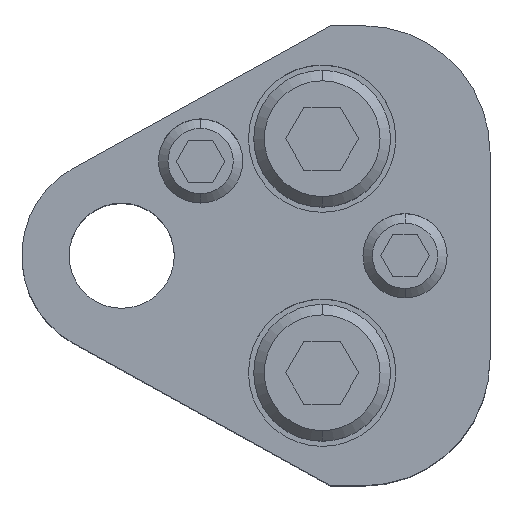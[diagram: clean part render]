
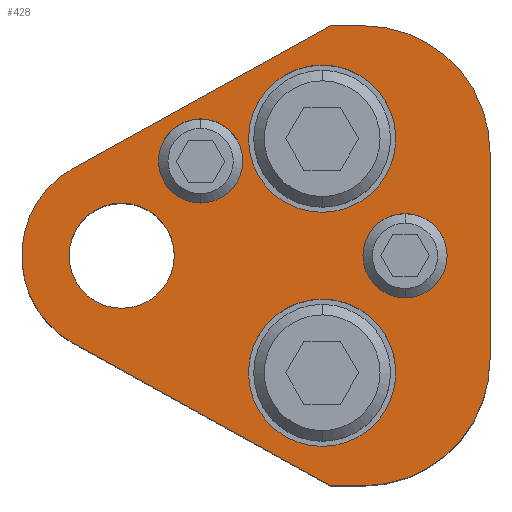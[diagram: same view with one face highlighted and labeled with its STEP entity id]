
A CAD part, top view. The second image highlights one B-rep face of the part: STEP entity #428.
In plain terms, the highlighted planar face has unit normal (0, 0, 1).
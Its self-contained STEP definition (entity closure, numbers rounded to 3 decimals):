
#198=FACE_BOUND('',#745,.T.);
#199=FACE_BOUND('',#746,.T.);
#200=FACE_BOUND('',#747,.T.);
#201=FACE_BOUND('',#748,.T.);
#202=FACE_BOUND('',#749,.T.);
#203=FACE_BOUND('',#750,.T.);
#276=CIRCLE('',#2330,12.);
#278=CIRCLE('',#2334,12.);
#281=CIRCLE('',#2340,9.5);
#282=CIRCLE('',#2342,4.);
#284=CIRCLE('',#2345,4.);
#286=CIRCLE('',#2348,4.);
#288=CIRCLE('',#2351,4.);
#298=CIRCLE('',#2366,7.);
#299=CIRCLE('',#2367,7.);
#300=CIRCLE('',#2368,7.);
#301=CIRCLE('',#2369,7.);
#302=CIRCLE('',#2370,5.);
#303=CIRCLE('',#2371,5.);
#428=ADVANCED_FACE('',(#198,#199,#200,#201,#202,#203),#522,.T.);
#522=PLANE('',#2372);
#745=EDGE_LOOP('',(#1129,#1130,#1131,#1132,#1133,#1134,#1135,#1136));
#746=EDGE_LOOP('',(#1137,#1138));
#747=EDGE_LOOP('',(#1139,#1140));
#748=EDGE_LOOP('',(#1141,#1142));
#749=EDGE_LOOP('',(#1143,#1144));
#750=EDGE_LOOP('',(#1145,#1146));
#1129=ORIENTED_EDGE('',*,*,#1724,.T.);
#1130=ORIENTED_EDGE('',*,*,#1728,.T.);
#1131=ORIENTED_EDGE('',*,*,#1731,.T.);
#1132=ORIENTED_EDGE('',*,*,#1734,.T.);
#1133=ORIENTED_EDGE('',*,*,#1737,.T.);
#1134=ORIENTED_EDGE('',*,*,#1740,.T.);
#1135=ORIENTED_EDGE('',*,*,#1743,.T.);
#1136=ORIENTED_EDGE('',*,*,#1746,.T.);
#1137=ORIENTED_EDGE('',*,*,#1771,.F.);
#1138=ORIENTED_EDGE('',*,*,#1772,.F.);
#1139=ORIENTED_EDGE('',*,*,#1773,.F.);
#1140=ORIENTED_EDGE('',*,*,#1774,.F.);
#1141=ORIENTED_EDGE('',*,*,#1757,.F.);
#1142=ORIENTED_EDGE('',*,*,#1753,.F.);
#1143=ORIENTED_EDGE('',*,*,#1751,.F.);
#1144=ORIENTED_EDGE('',*,*,#1747,.F.);
#1145=ORIENTED_EDGE('',*,*,#1775,.T.);
#1146=ORIENTED_EDGE('',*,*,#1776,.T.);
#1492=VERTEX_POINT('',#3476);
#1493=VERTEX_POINT('',#3478);
#1496=VERTEX_POINT('',#3485);
#1498=VERTEX_POINT('',#3491);
#1500=VERTEX_POINT('',#3497);
#1502=VERTEX_POINT('',#3503);
#1504=VERTEX_POINT('',#3509);
#1506=VERTEX_POINT('',#3515);
#1507=VERTEX_POINT('',#3523);
#1508=VERTEX_POINT('',#3524);
#1511=VERTEX_POINT('',#3535);
#1512=VERTEX_POINT('',#3536);
#1523=VERTEX_POINT('',#3571);
#1524=VERTEX_POINT('',#3572);
#1525=VERTEX_POINT('',#3575);
#1526=VERTEX_POINT('',#3576);
#1527=VERTEX_POINT('',#3579);
#1528=VERTEX_POINT('',#3580);
#1724=EDGE_CURVE('',#1493,#1492,#1968,.T.);
#1728=EDGE_CURVE('',#1492,#1496,#1972,.T.);
#1731=EDGE_CURVE('',#1496,#1498,#276,.T.);
#1734=EDGE_CURVE('',#1498,#1500,#1976,.T.);
#1737=EDGE_CURVE('',#1500,#1502,#278,.T.);
#1740=EDGE_CURVE('',#1502,#1504,#1980,.T.);
#1743=EDGE_CURVE('',#1504,#1506,#1983,.T.);
#1746=EDGE_CURVE('',#1506,#1493,#281,.T.);
#1747=EDGE_CURVE('',#1507,#1508,#282,.T.);
#1751=EDGE_CURVE('',#1508,#1507,#284,.T.);
#1753=EDGE_CURVE('',#1511,#1512,#286,.T.);
#1757=EDGE_CURVE('',#1512,#1511,#288,.T.);
#1771=EDGE_CURVE('',#1523,#1524,#298,.T.);
#1772=EDGE_CURVE('',#1524,#1523,#299,.T.);
#1773=EDGE_CURVE('',#1525,#1526,#300,.T.);
#1774=EDGE_CURVE('',#1526,#1525,#301,.T.);
#1775=EDGE_CURVE('',#1527,#1528,#302,.T.);
#1776=EDGE_CURVE('',#1528,#1527,#303,.T.);
#1968=LINE('',#3477,#2132);
#1972=LINE('',#3486,#2136);
#1976=LINE('',#3498,#2140);
#1980=LINE('',#3510,#2144);
#1983=LINE('',#3516,#2147);
#2132=VECTOR('',#2758,1.);
#2136=VECTOR('',#2764,1.);
#2140=VECTOR('',#2776,1.);
#2144=VECTOR('',#2788,1.);
#2147=VECTOR('',#2793,1.);
#2330=AXIS2_PLACEMENT_3D('',#3492,#2769,#2770);
#2334=AXIS2_PLACEMENT_3D('',#3504,#2781,#2782);
#2340=AXIS2_PLACEMENT_3D('',#3520,#2799,#2800);
#2342=AXIS2_PLACEMENT_3D('',#3522,#2803,#2804);
#2345=AXIS2_PLACEMENT_3D('',#3531,#2811,#2812);
#2348=AXIS2_PLACEMENT_3D('',#3534,#2817,#2818);
#2351=AXIS2_PLACEMENT_3D('',#3543,#2825,#2826);
#2366=AXIS2_PLACEMENT_3D('',#3570,#2859,#2860);
#2367=AXIS2_PLACEMENT_3D('',#3573,#2861,#2862);
#2368=AXIS2_PLACEMENT_3D('',#3574,#2863,#2864);
#2369=AXIS2_PLACEMENT_3D('',#3577,#2865,#2866);
#2370=AXIS2_PLACEMENT_3D('',#3578,#2867,#2868);
#2371=AXIS2_PLACEMENT_3D('',#3581,#2869,#2870);
#2372=AXIS2_PLACEMENT_3D('',#3582,#2871,#2872);
#2758=DIRECTION('',(0.875,-0.485,0.));
#2764=DIRECTION('',(1.,0.,0.));
#2769=DIRECTION('',(0.,0.,1.));
#2770=DIRECTION('',(-0.707,0.707,0.));
#2776=DIRECTION('',(0.,1.,0.));
#2781=DIRECTION('',(0.,0.,1.));
#2782=DIRECTION('',(-0.707,-0.707,0.));
#2788=DIRECTION('',(-1.,0.,0.));
#2793=DIRECTION('',(-0.875,-0.485,0.));
#2799=DIRECTION('',(0.,0.,1.));
#2800=DIRECTION('',(1.,0.,0.));
#2803=DIRECTION('',(0.,0.,1.));
#2804=DIRECTION('',(-1.,0.,0.));
#2811=DIRECTION('',(0.,0.,1.));
#2812=DIRECTION('',(1.,0.,0.));
#2817=DIRECTION('',(0.,0.,1.));
#2818=DIRECTION('',(-1.,0.,0.));
#2825=DIRECTION('',(0.,0.,1.));
#2826=DIRECTION('',(1.,0.,0.));
#2859=DIRECTION('',(0.,0.,1.));
#2860=DIRECTION('',(1.,0.,0.));
#2861=DIRECTION('',(0.,0.,1.));
#2862=DIRECTION('',(-1.,0.,0.));
#2863=DIRECTION('',(0.,0.,1.));
#2864=DIRECTION('',(1.,0.,0.));
#2865=DIRECTION('',(0.,0.,1.));
#2866=DIRECTION('',(-1.,0.,0.));
#2867=DIRECTION('',(0.,0.,-1.));
#2868=DIRECTION('',(-1.,0.,0.));
#2869=DIRECTION('',(0.,0.,-1.));
#2870=DIRECTION('',(1.,0.,0.));
#2871=DIRECTION('',(0.,0.,1.));
#2872=DIRECTION('',(-0.875,0.485,0.));
#3476=CARTESIAN_POINT('',(19.823,-21.85,32.));
#3477=CARTESIAN_POINT('',(19.823,-21.85,32.));
#3478=CARTESIAN_POINT('',(-4.606,-8.309,32.));
#3485=CARTESIAN_POINT('',(23.,-21.85,32.));
#3486=CARTESIAN_POINT('',(19.823,-21.85,32.));
#3491=CARTESIAN_POINT('',(35.,-9.85,32.));
#3492=CARTESIAN_POINT('',(23.,-9.85,32.));
#3497=CARTESIAN_POINT('',(35.,9.85,32.));
#3498=CARTESIAN_POINT('',(35.,9.85,32.));
#3503=CARTESIAN_POINT('',(23.,21.85,32.));
#3504=CARTESIAN_POINT('',(23.,9.85,32.));
#3509=CARTESIAN_POINT('',(19.823,21.85,32.));
#3510=CARTESIAN_POINT('',(19.823,21.85,32.));
#3515=CARTESIAN_POINT('',(-4.606,8.309,32.));
#3516=CARTESIAN_POINT('',(19.823,21.85,32.));
#3520=CARTESIAN_POINT('',(0.,0.,32.));
#3522=CARTESIAN_POINT('',(7.5,9.,32.));
#3523=CARTESIAN_POINT('',(7.5,5.,32.));
#3524=CARTESIAN_POINT('',(7.5,13.,32.));
#3531=CARTESIAN_POINT('',(7.5,9.,32.));
#3534=CARTESIAN_POINT('',(26.925,0.,32.));
#3535=CARTESIAN_POINT('',(26.925,-4.,32.));
#3536=CARTESIAN_POINT('',(26.925,4.,32.));
#3543=CARTESIAN_POINT('',(26.925,0.,32.));
#3570=CARTESIAN_POINT('',(19.05,11.12,32.));
#3571=CARTESIAN_POINT('',(19.05,18.12,32.));
#3572=CARTESIAN_POINT('',(19.05,4.12,32.));
#3573=CARTESIAN_POINT('',(19.05,11.12,32.));
#3574=CARTESIAN_POINT('',(19.05,-11.12,32.));
#3575=CARTESIAN_POINT('',(19.05,-4.12,32.));
#3576=CARTESIAN_POINT('',(19.05,-18.12,32.));
#3577=CARTESIAN_POINT('',(19.05,-11.12,32.));
#3578=CARTESIAN_POINT('',(0.,0.,32.));
#3579=CARTESIAN_POINT('',(0.,5.,32.));
#3580=CARTESIAN_POINT('',(0.,-5.,32.));
#3581=CARTESIAN_POINT('',(0.,0.,32.));
#3582=CARTESIAN_POINT('',(-4.606,-8.309,32.));
